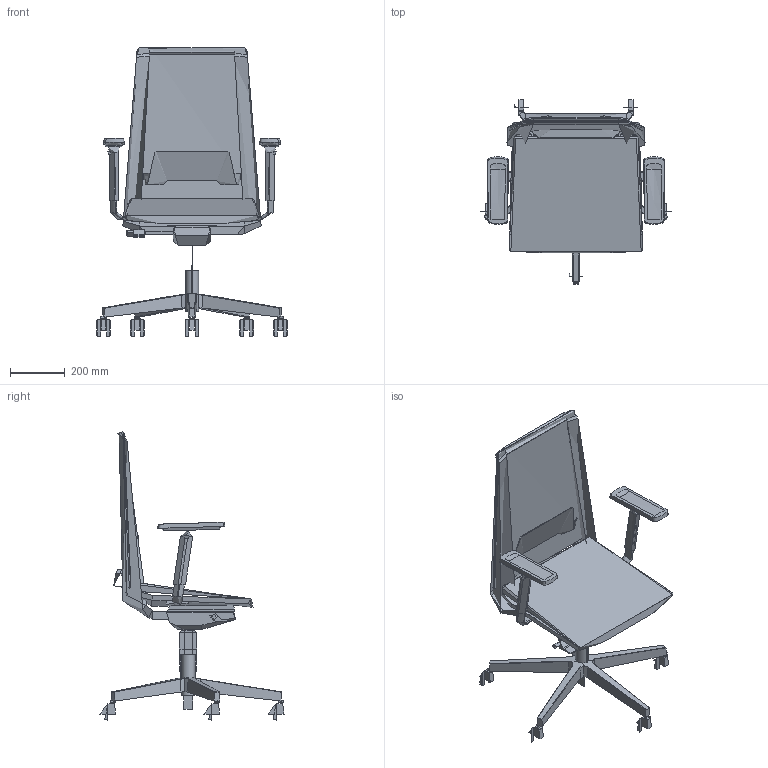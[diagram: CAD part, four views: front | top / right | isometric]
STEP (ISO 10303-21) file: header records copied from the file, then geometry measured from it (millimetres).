
FILE_DESCRIPTION(/* description */ (''),/* implementation_level */ '2;1');
FILE_NAME(/* name */ 'LOOK27~1',/* time_stamp */ '2015-09-18T14:15:06+02:00',/* author */ (''),/* organization */ (''),/* preprocessor_version */ 'ST-DEVELOPER v15',/* originating_system */ '',/* authorisation */ '');
FILE_SCHEMA (('AUTOMOTIVE_DESIGN'));
Length unit declared in the file: millimetre
Products named in the file (1): Document
Bounding box: 694.82 x 671.18 x 1050.53 mm (x, y, z)
Volume: 6078696.5 mm3; surface area: 2196865.2 mm2
Topology: 15 solids, 65 shells, 457 faces, 1130 edges, 711 vertices
Faces by surface type: bspline 332, plane 125
Entity records: 35799 total; most frequent: CARTESIAN_POINT 28758, ORIENTED_EDGE 1962, EDGE_CURVE 1111, VERTEX_POINT 707, B_SPLINE_CURVE_WITH_KNOTS 603, EDGE_LOOP 461, ADVANCED_FACE 457, FACE_OUTER_BOUND 457
